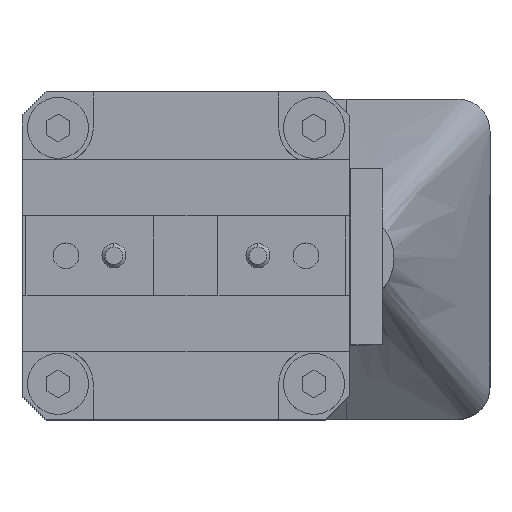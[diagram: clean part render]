
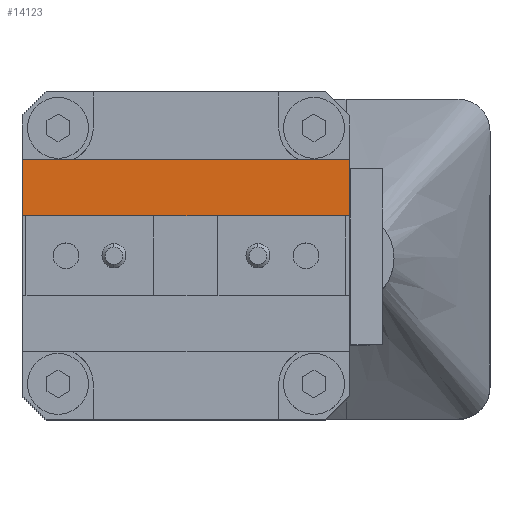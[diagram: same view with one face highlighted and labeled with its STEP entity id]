
A CAD part, top view. The second image highlights one B-rep face of the part: STEP entity #14123.
In plain terms, the highlighted planar face has unit normal (0, 0, 1).
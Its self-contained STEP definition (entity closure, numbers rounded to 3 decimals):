
#1071 = EDGE_CURVE ( 'NONE', #1096, #1295, #15474, .T. ) ;
#1096 = VERTEX_POINT ( 'NONE', #15470 ) ;
#1295 = VERTEX_POINT ( 'NONE', #15512 ) ;
#7125 = CARTESIAN_POINT ( 'NONE',  ( 10.2, 2.5, 27.65 ) ) ;
#7126 = LINE ( 'NONE', #7125, #7175 ) ;
#7131 = CARTESIAN_POINT ( 'NONE',  ( 10.2, 2.5, 27.65 ) ) ;
#7132 = DIRECTION ( 'NONE',  ( 0., -1., 0. ) ) ;
#7133 = VECTOR ( 'NONE', #7132, 1000. ) ;
#7134 = CARTESIAN_POINT ( 'NONE',  ( 10.2, 6., 27.65 ) ) ;
#7135 = LINE ( 'NONE', #7134, #7133 ) ;
#7174 = DIRECTION ( 'NONE',  ( -1., 0., 0. ) ) ;
#7175 = VECTOR ( 'NONE', #7174, 1000. ) ;
#7177 = DIRECTION ( 'NONE',  ( 0., -1., 0. ) ) ;
#7178 = VECTOR ( 'NONE', #7177, 1000. ) ;
#7179 = CARTESIAN_POINT ( 'NONE',  ( -10.2, 6., 27.65 ) ) ;
#7180 = LINE ( 'NONE', #7179, #7178 ) ;
#7182 = DIRECTION ( 'NONE',  ( -1., 0., 0. ) ) ;
#7183 = DIRECTION ( 'NONE',  ( 0., 0., -1. ) ) ;
#7184 = CARTESIAN_POINT ( 'NONE',  ( 10.2, 6., 27.65 ) ) ;
#7185 = AXIS2_PLACEMENT_3D ( 'NONE', #7184, #7183, #7182 ) ;
#7186 = PLANE ( 'NONE',  #7185 ) ;
#7201 = FACE_OUTER_BOUND ( 'NONE', #14124, .T. ) ;
#7219 = CARTESIAN_POINT ( 'NONE',  ( -10.2, 2.5, 27.65 ) ) ;
#14108 = EDGE_CURVE ( 'NONE', #1096, #14110, #7135, .T. ) ;
#14110 = VERTEX_POINT ( 'NONE', #7131 ) ;
#14112 = EDGE_CURVE ( 'NONE', #14110, #14128, #7126, .T. ) ;
#14115 = ORIENTED_EDGE ( 'NONE', *, *, #14108, .F. ) ;
#14117 = ORIENTED_EDGE ( 'NONE', *, *, #14112, .F. ) ;
#14123 = ADVANCED_FACE ( 'NONE', ( #7201 ), #7186, .F. ) ;
#14124 = EDGE_LOOP ( 'NONE', ( #14125, #14117, #14115, #14140 ) ) ;
#14125 = ORIENTED_EDGE ( 'NONE', *, *, #14126, .T. ) ;
#14126 = EDGE_CURVE ( 'NONE', #1295, #14128, #7180, .T. ) ;
#14128 = VERTEX_POINT ( 'NONE', #7219 ) ;
#14140 = ORIENTED_EDGE ( 'NONE', *, *, #1071, .T. ) ;
#15470 = CARTESIAN_POINT ( 'NONE',  ( 10.2, 6., 27.65 ) ) ;
#15471 = DIRECTION ( 'NONE',  ( -1., 0., 0. ) ) ;
#15472 = VECTOR ( 'NONE', #15471, 1000. ) ;
#15473 = CARTESIAN_POINT ( 'NONE',  ( 10.2, 6., 27.65 ) ) ;
#15474 = LINE ( 'NONE', #15473, #15472 ) ;
#15512 = CARTESIAN_POINT ( 'NONE',  ( -10.2, 6., 27.65 ) ) ;
